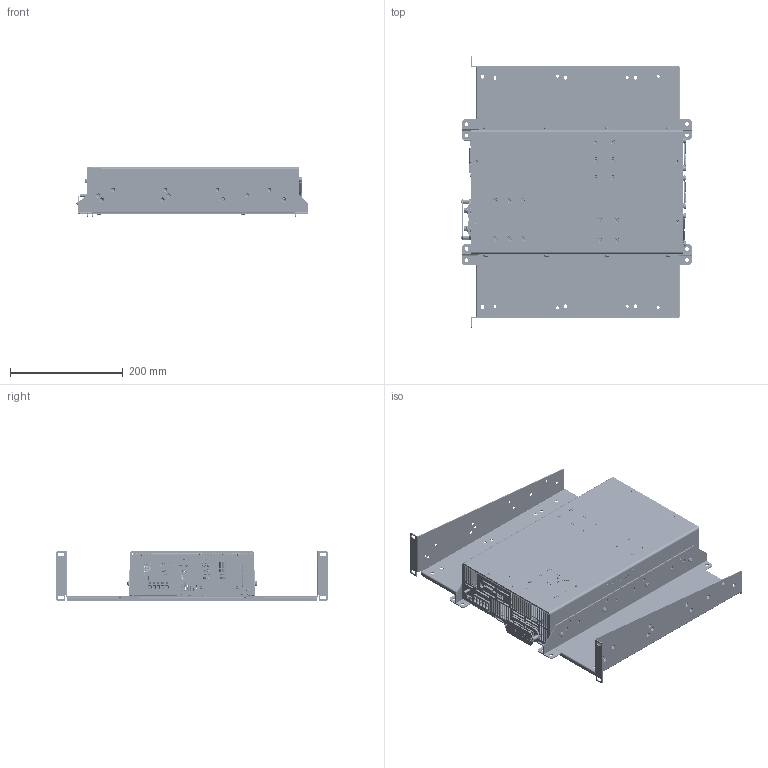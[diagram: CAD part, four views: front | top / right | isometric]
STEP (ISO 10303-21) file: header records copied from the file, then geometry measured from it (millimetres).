
FILE_DESCRIPTION(/* description */ (''),/* implementation_level */ '2;1');
FILE_NAME(/* name */ 'ODX-4500-B-T_p',/* time_stamp */ '2022-03-08T13:12:52+01:00',/* author */ ('A. Sanz'),/* organization */ ('Premium S.A.'),/* preprocessor_version */ 'ST-DEVELOPER v18.1',/* originating_system */ 'Solid Edge',/* authorisation */ 'Unknown');
FILE_SCHEMA (('AUTOMOTIVE_DESIGN {1 0 10303 214 3 1 1}'));
Products named in the file (5): ODX-4500-B-T_p; ODX-4500_B-T-Case; NP-9353; NP-9282-Ext; NP-9282-Int
Assembly tree (4 placements, depth 2):
  ODX-4500-B-T_p
    ODX-4500_B-T-Case
    NP-9353
    NP-9282-Ext
    NP-9282-Int
Bounding box: 410.82 x 482.6 x 88.6 mm (x, y, z)
Volume: 2211182.6 mm3; surface area: 1878775.9 mm2
Topology: 195 solids, 196 shells, 15368 faces, 40894 edges, 26884 vertices
Faces by surface type: plane 9906, cylinder 2877, bspline 1943, cone 467, sphere 93, torus 82
Full cylindrical faces by diameter (mm): 0.25 x6, 0.296 x1, 0.457 x3, 0.5 x8, 0.6 x45, 0.765 x3, 0.8 x163, 1 x269, 1.1 x5, 1.2 x28, 1.25 x26, 1.3 x10, 1.5 x39, 1.6 x6, 1.7 x94, 1.79 x36, 1.8 x10, 2 x14, 2.1 x8, 2.3 x4, 2.459 x36, 2.5 x4, 3 x36, 3.1 x1, 3.2 x40, 3.24 x8, 3.242 x12, 3.5 x10, 3.8 x10, 4 x106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
Entity records: 594239 total; most frequent: CARTESIAN_POINT 146124, ORIENTED_EDGE 76544, DIRECTION 68380, EDGE_CURVE 38346, LINE 28208, VECTOR 28208, VERTEX_POINT 26319, FACE_BOUND 20435
